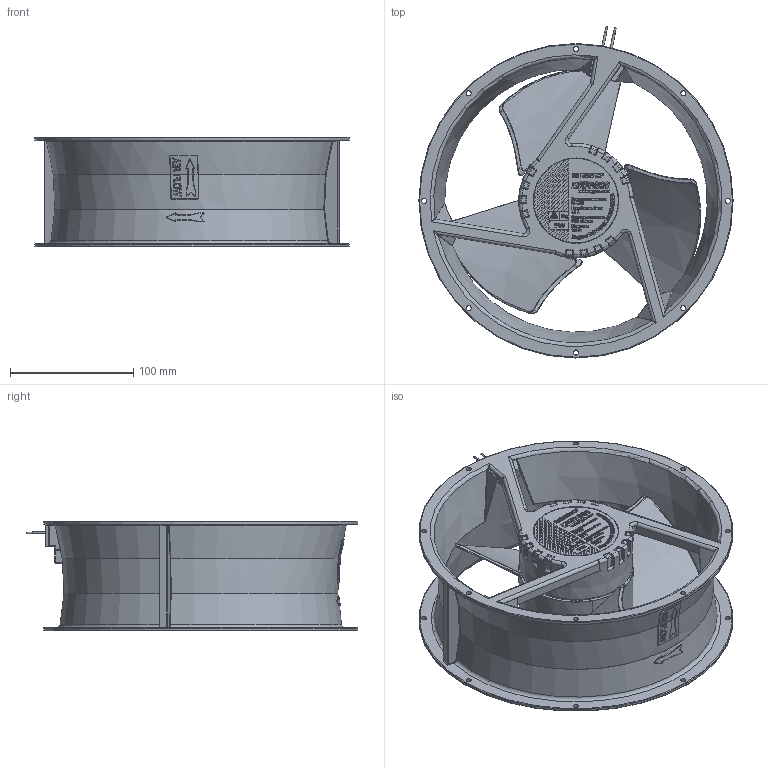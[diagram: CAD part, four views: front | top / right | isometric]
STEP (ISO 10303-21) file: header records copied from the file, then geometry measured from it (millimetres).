
FILE_DESCRIPTION(/* description */ (''),/* implementation_level */ '2;1');
FILE_NAME(/* name */ 'D:\Котлубовский\Вентиляторы\VENT-25490.24VDC.3MRHB\VENT-25490.24VDC.3MRHB.stp',/* time_stamp */ '2022-10-06T19:46:17+07:00',/* author */ ('YURY_'),/* organization */ (''),/* preprocessor_version */ 'ST-DEVELOPER v17.2',/* originating_system */ 'Autodesk Inventor 2019',/* authorisation */ '');
FILE_SCHEMA (('AUTOMOTIVE_DESIGN { 1 0 10303 214 3 1 1 }'));
Length unit declared in the file: millimetre
Products named in the file (7): VENT-25490.24VDC.3MRHB; 1_VENT-25490.24VDC.3MRHB; 2_VENT-25490.24VDC.3MRHB; Винт 2.M3-6gx22 ГОСТ 
17475-80; 3_VENT-25490.24VDC.3MRHB; 4_VENT-25490.24VDC.3MRHB; 5_VENT-25490.24VDC.3MRHB
Assembly tree (6 placements, depth 2):
  VENT-25490.24VDC.3MRHB
    1_VENT-25490.24VDC.3MRHB
    2_VENT-25490.24VDC.3MRHB
    Винт 2.M3-6gx22 ГОСТ 
17475-80
    3_VENT-25490.24VDC.3MRHB
    4_VENT-25490.24VDC.3MRHB
    5_VENT-25490.24VDC.3MRHB
Bounding box: 254.6 x 268.82 x 89 mm (x, y, z)
Volume: 744155.7 mm3; surface area: 291770.5 mm2
Topology: 6 solids, 6 shells, 5114 faces, 13108 edges, 8383 vertices
Faces by surface type: plane 2432, bspline 1998, cylinder 255, torus 235, cone 106, sphere 88
Full cylindrical faces by diameter (mm): 1.3 x2, 1.8 x2, 2.459 x1, 3 x2, 3.242 x1, 3.7 x1, 4.134 x16, 5.6 x1, 12.4 x1, 14 x1, 68.5 x1, 86.304 x1, 254.6 x2
Entity records: 190311 total; most frequent: CARTESIAN_POINT 78120, ORIENTED_EDGE 26126, DIRECTION 17162, EDGE_CURVE 13063, VERTEX_POINT 8388, LINE 7152, VECTOR 7152, EDGE_LOOP 5585
